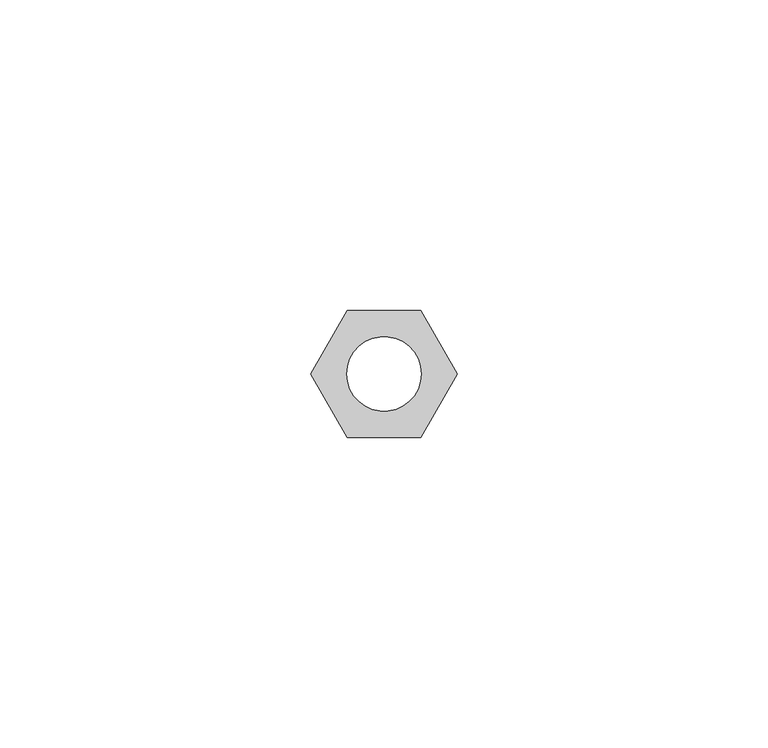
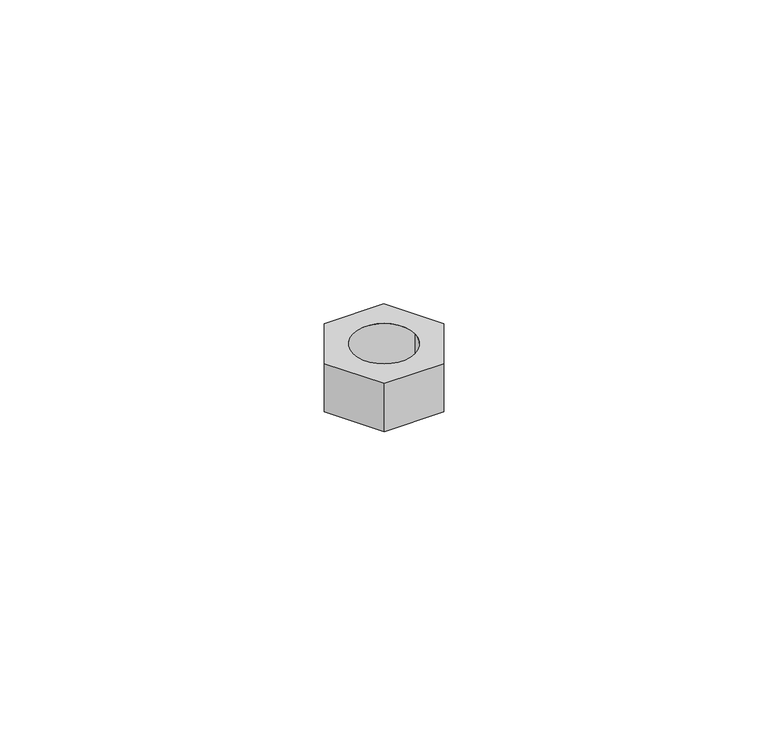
"""IFC4 building model written with IfcOpenShell, lengths in millimetres: fastener geometry, GEN-T-M12 : T-M12."""

from ifc_helpers import new_model, si_unit, point, origin, origin_with_axes, origin_2d, place, context, project, spatial, polyline, circle_curve, trimmed, segment, composite_curve, outline, extrude, source, transform, mapped, element, save


def fastener_e2884140(model_context):
    return source(origin(), model_context, "Body", "SweptSolid", [
        extrude(outline(polyline([(-5.890503, -10.20264), (-11.781, 0.0), (-5.890503, 10.20264), (5.8904909, 10.20264), (11.7809879, 0.0), (5.8904909, -10.20264), (-5.890503, -10.20264)]), holes=[composite_curve([segment(trimmed(circle_curve(origin_2d(), 6.0), [point((-6.0, 0.0))], [point((6.0, 0.0))], True, "CARTESIAN"), True, "CONTINUOUS"), segment(trimmed(circle_curve(origin_2d(), 6.0), [point((6.0, 0.0))], [point((-6.0, 0.0))], True, "CARTESIAN"), True, "CONTINUOUS")], self_intersect=False)]), origin_with_axes(), (0.0, 0.0, 1.0), 10.0),
    ])


if __name__ == "__main__":
    model = new_model("IFC4")
    model_context = context("Model", 3, world=origin())
    ifc_project = project(units=[si_unit("LENGTHUNIT", "METRE", prefix="MILLI")], contexts=[model_context])
    site = spatial("IfcSite", under=ifc_project)
    building = spatial("IfcBuilding", under=site)
    placement = place(None, origin())
    fastener_shape = fastener_e2884140(model_context)
    element("IfcFastener", 1, ObjectType="GEN-T-M12 : T-M12", at=placement, inside=building, context=model_context, shape_type="MappedRepresentation", body=[
        mapped(fastener_shape, transform((0.0, 0.0, 0.0), x_axis=(1.0, 0.0, 0.0), y_axis=(0.0, 1.0, 0.0), z_axis=(0.0, 0.0, 1.0))),
    ])
    save(model, "model.ifc")
